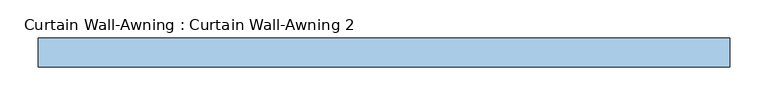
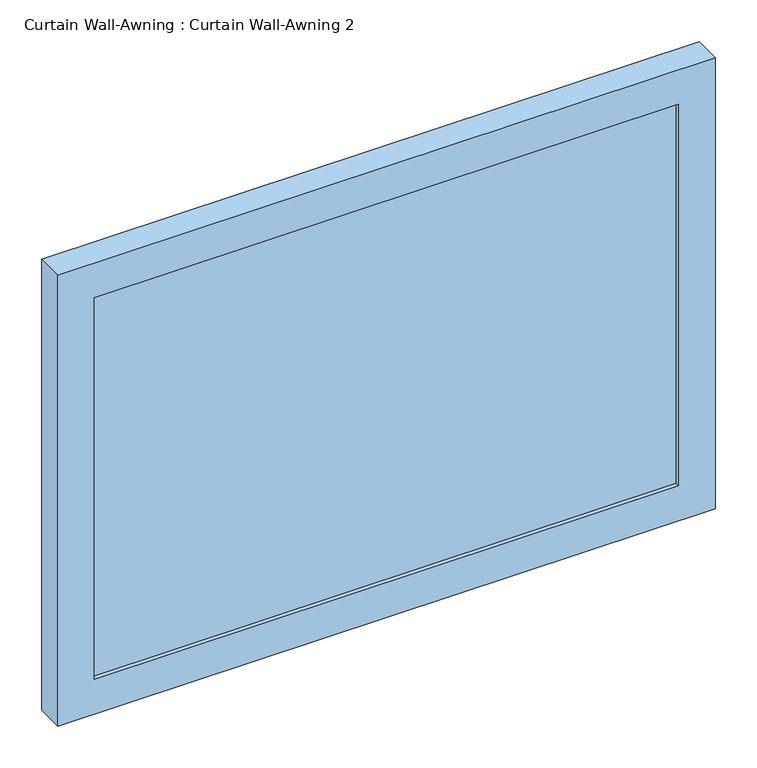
"""IFC4 building model written with IfcOpenShell, lengths in millimetres: window geometry, Curtain Wall-Awning : Curtain Wall-Awning 2."""

from ifc_helpers import new_model, si_unit, frame, origin, place, context, project, spatial, polyline, outline, extrude, source, transform, mapped, element, save


def curtain_wall_awning_curtain_wall_awning_2_9e451952(model_context):
    return source(origin(), model_context, "Body", "SweptSolid", [
        extrude(outline(polyline([(403.9654682, 19.05), (403.9654682, 6.35), (-403.9654682, 6.35), (-403.9654682, 19.05), (403.9654682, 19.05)])), frame((0.0, 0.0, 50.8), z_axis=(0.0, 0.0, 1.0), x_axis=(1.0, 0.0, 0.0)), (0.0, 0.0, 1.0), 557.907202),
        extrude(outline(polyline([(659.507202, -454.7654682), (0.0, -454.7654682), (0.0, 454.7654682), (659.507202, 454.7654682), (659.507202, -454.7654682)]), holes=[polyline([(608.707202, -403.9654682), (608.707202, 403.9654682), (50.8, 403.9654682), (50.8, -403.9654682), (608.707202, -403.9654682)])]), frame((0.0, 0.0, 0.0), z_axis=(0.0, 1.0, 0.0), x_axis=(0.0, 0.0, 1.0)), (0.0, 0.0, 1.0), 38.1),
    ])


if __name__ == "__main__":
    model = new_model("IFC4")
    model_context = context("Model", 3, world=origin())
    ifc_project = project(units=[si_unit("LENGTHUNIT", "METRE", prefix="MILLI")], contexts=[model_context])
    site = spatial("IfcSite", under=ifc_project)
    building = spatial("IfcBuilding", under=site)
    placement = place(None, origin())
    curtain_wall_awning_curtain_wall_awning_2_shape = curtain_wall_awning_curtain_wall_awning_2_9e451952(model_context)
    element("IfcWindow", 1, ObjectType="Curtain Wall-Awning : Curtain Wall-Awning 2", at=placement, inside=building, context=model_context, shape_type="MappedRepresentation", body=[
        mapped(curtain_wall_awning_curtain_wall_awning_2_shape, transform((0.0, 0.0, 0.0), x_axis=(1.0, 0.0, 0.0), y_axis=(0.0, 1.0, 0.0), z_axis=(0.0, 0.0, 1.0))),
    ])
    save(model, "model.ifc")
